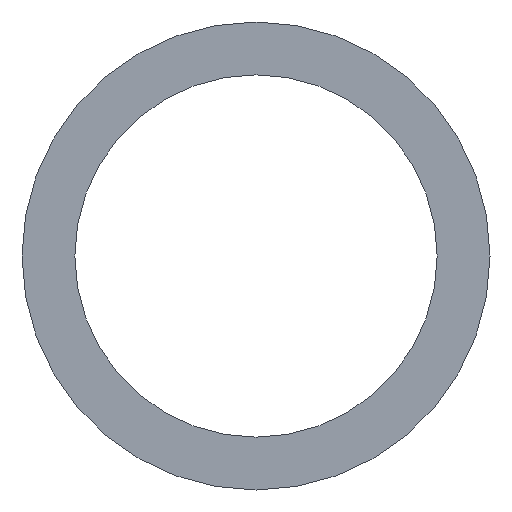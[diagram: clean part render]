
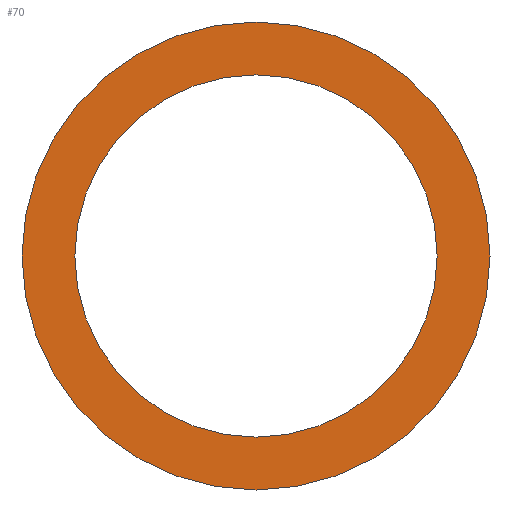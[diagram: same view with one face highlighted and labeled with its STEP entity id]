
A CAD part, front view. The second image highlights one B-rep face of the part: STEP entity #70.
In plain terms, the highlighted planar face has unit normal (0, -1, 0).
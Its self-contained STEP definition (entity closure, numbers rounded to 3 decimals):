
#31 = VERTEX_POINT('',#32);
#32 = CARTESIAN_POINT('',(0.,-47.,47.75));
#38 = EDGE_CURVE('',#31,#31,#39,.T.);
#39 = CIRCLE('',#40,15.5);
#40 = AXIS2_PLACEMENT_3D('',#41,#42,#43);
#41 = CARTESIAN_POINT('',(0.,-47.,32.25));
#42 = DIRECTION('',(0.,1.,0.));
#43 = DIRECTION('',(0.,0.,1.));
#70 = ADVANCED_FACE('',(#71,#74),#85,.F.);
#71 = FACE_BOUND('',#72,.F.);
#72 = EDGE_LOOP('',(#73));
#73 = ORIENTED_EDGE('',*,*,#38,.T.);
#74 = FACE_BOUND('',#75,.F.);
#75 = EDGE_LOOP('',(#76));
#76 = ORIENTED_EDGE('',*,*,#77,.F.);
#77 = EDGE_CURVE('',#78,#78,#80,.T.);
#78 = VERTEX_POINT('',#79);
#79 = CARTESIAN_POINT('',(0.,-47.,44.25));
#80 = CIRCLE('',#81,12.);
#81 = AXIS2_PLACEMENT_3D('',#82,#83,#84);
#82 = CARTESIAN_POINT('',(0.,-47.,32.25));
#83 = DIRECTION('',(0.,1.,0.));
#84 = DIRECTION('',(0.,0.,1.));
#85 = PLANE('',#86);
#86 = AXIS2_PLACEMENT_3D('',#87,#88,#89);
#87 = CARTESIAN_POINT('',(0.,-47.,32.25));
#88 = DIRECTION('',(0.,1.,0.));
#89 = DIRECTION('',(0.,0.,1.));
